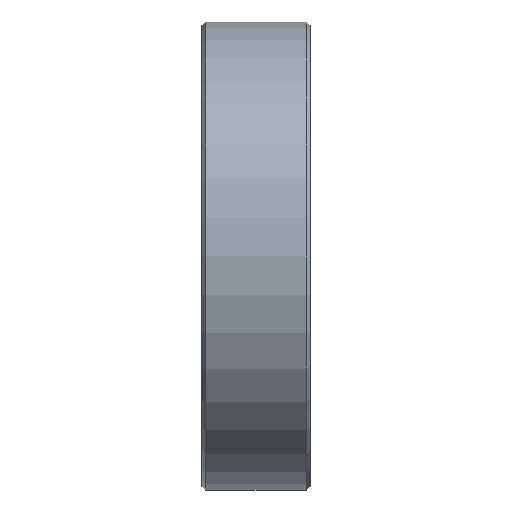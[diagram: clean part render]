
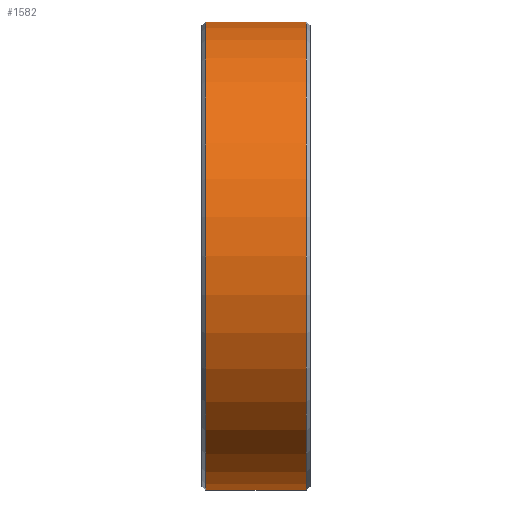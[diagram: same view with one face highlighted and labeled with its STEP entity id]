
A CAD part, front view. The second image highlights one B-rep face of the part: STEP entity #1582.
In plain terms, the highlighted cylindrical face has radius 32.5 mm (diameter 65 mm), a partial arc.
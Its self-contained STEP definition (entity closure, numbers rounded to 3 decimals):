
#104=LINE('',#2128,#178);
#105=LINE('',#2132,#179);
#178=VECTOR('',#1797,1000.);
#179=VECTOR('',#1800,1000.);
#252=ORIENTED_EDGE('',*,*,#544,.T.);
#253=ORIENTED_EDGE('',*,*,#545,.T.);
#254=ORIENTED_EDGE('',*,*,#546,.F.);
#255=ORIENTED_EDGE('',*,*,#547,.T.);
#544=EDGE_CURVE('',#690,#691,#794,.T.);
#545=EDGE_CURVE('',#691,#692,#104,.T.);
#546=EDGE_CURVE('',#693,#692,#795,.T.);
#547=EDGE_CURVE('',#693,#690,#105,.F.);
#690=VERTEX_POINT('',#2126);
#691=VERTEX_POINT('',#2127);
#692=VERTEX_POINT('',#2129);
#693=VERTEX_POINT('',#2131);
#794=CIRCLE('',#1664,32.5);
#795=CIRCLE('',#1665,32.5);
#848=EDGE_LOOP('',(#252,#253,#254,#255));
#946=FACE_BOUND('',#848,.T.);
#1048=CYLINDRICAL_SURFACE('',#1663,32.5);
#1582=ADVANCED_FACE('',(#946),#1048,.T.);
#1663=AXIS2_PLACEMENT_3D('',#2124,#1793,#1794);
#1664=AXIS2_PLACEMENT_3D('',#2125,#1795,#1796);
#1665=AXIS2_PLACEMENT_3D('',#2130,#1798,#1799);
#1793=DIRECTION('',(1.,0.,0.));
#1794=DIRECTION('',(0.,0.,-1.));
#1795=DIRECTION('',(1.,0.,0.));
#1796=DIRECTION('',(0.,0.,-1.));
#1797=DIRECTION('',(1.,0.,0.));
#1798=DIRECTION('',(1.,0.,0.));
#1799=DIRECTION('',(0.,0.,-1.));
#1800=DIRECTION('',(1.,0.,0.));
#2124=CARTESIAN_POINT('',(7.5,0.,0.));
#2125=CARTESIAN_POINT('',(-7.,0.,0.));
#2126=CARTESIAN_POINT('',(-7.,-2.,32.438));
#2127=CARTESIAN_POINT('',(-7.,-2.,-32.438));
#2128=CARTESIAN_POINT('',(7.5,-2.,-32.438));
#2129=CARTESIAN_POINT('',(7.,-2.,-32.438));
#2130=CARTESIAN_POINT('',(7.,0.,0.));
#2131=CARTESIAN_POINT('',(7.,-2.,32.438));
#2132=CARTESIAN_POINT('',(7.5,-2.,32.438));
